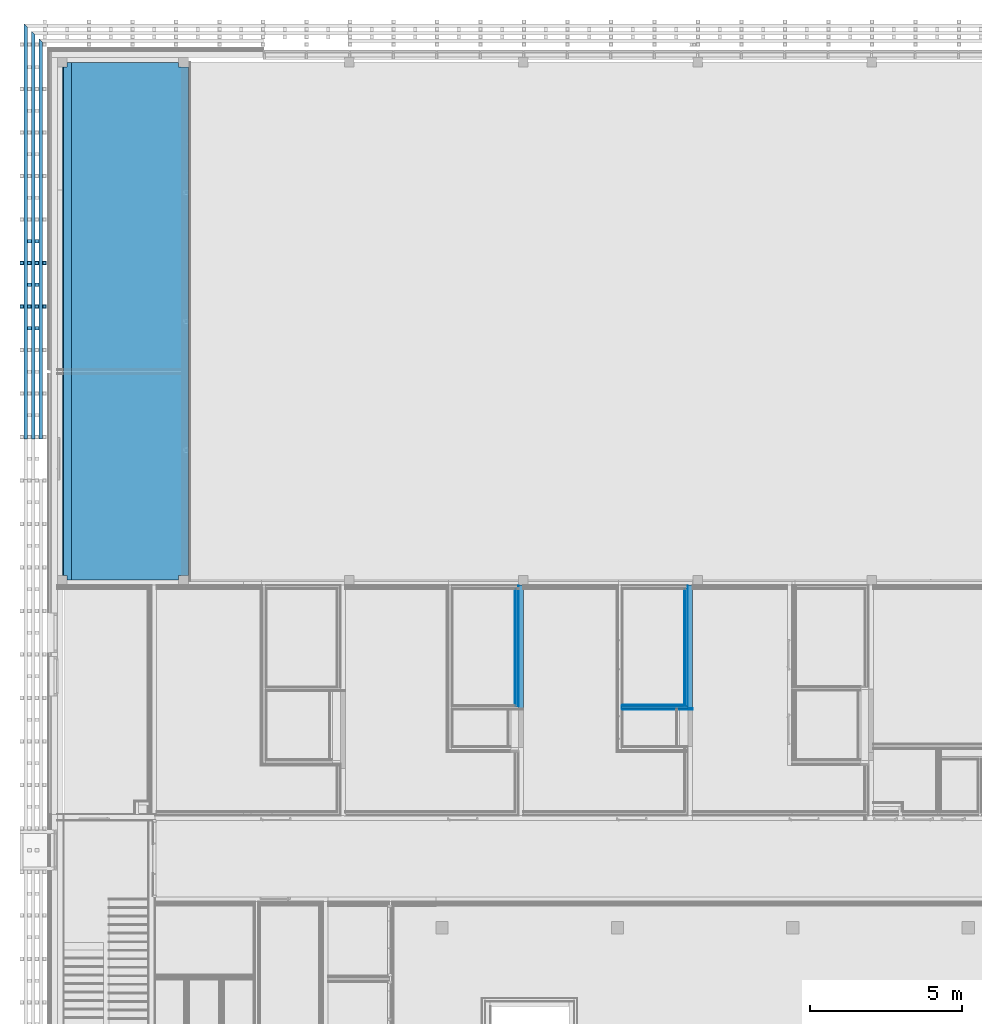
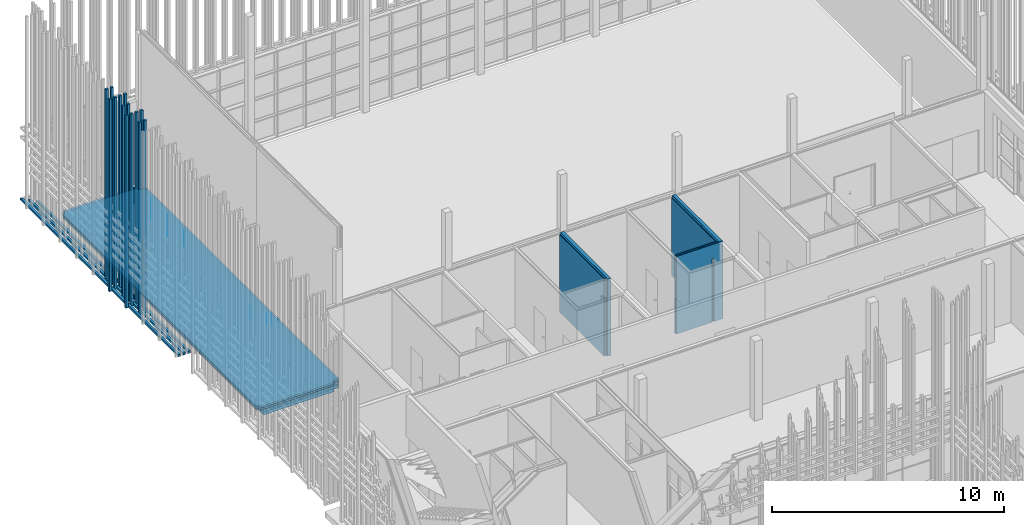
# One storey, part 225 of 260: 27 building element parts, 6 discrete accessories, 4 elements without a shape of their own.
"""IFC2X3 building model written with IfcOpenShell, lengths in millimetres."""

from ifc_helpers import new_model, entity, si_unit, converted_unit, derived_unit, money_unit, direction, frame, origin_with_axes, place, context, subcontext, project, spatial, faceted_brep, material, material_list, type_object, element, aggregate, save


model = new_model("IFC2X3")

# Units and contexts
model_context = context("Model", 3, precision=0.01, world=origin_with_axes(), true_north=direction((0.0, 1.0)))
body_context = subcontext(model_context, "Body", "Model", "MODEL_VIEW")
ifc_project = project(units=[si_unit("LENGTHUNIT", "METRE", prefix="MILLI"), si_unit("AREAUNIT", "SQUARE_METRE"), si_unit("VOLUMEUNIT", "CUBIC_METRE"), converted_unit("PLANEANGLEUNIT", "DEGREE", entity("IfcPlaneAngleMeasure", 0.0174532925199), si_unit("PLANEANGLEUNIT", "RADIAN"), dimensions=[0, 0, 0, 0, 0, 0, 0]), money_unit("EUR"), converted_unit("TIMEUNIT", "Year", entity("IfcTimeMeasure", 31556926.0), si_unit("TIMEUNIT", "SECOND"), dimensions=[0, 0, 1, 0, 0, 0, 0]), si_unit("MASSUNIT", "GRAM", prefix="KILO"), si_unit("THERMODYNAMICTEMPERATUREUNIT", "DEGREE_CELSIUS"), si_unit("LUMINOUSINTENSITYUNIT", "LUMEN"), si_unit("ENERGYUNIT", "JOULE", prefix="MEGA"), derived_unit("THERMALCONDUCTANCEUNIT", [(si_unit("POWERUNIT", "WATT"), 1), (si_unit("LENGTHUNIT", "METRE"), -1), (si_unit("THERMODYNAMICTEMPERATUREUNIT", "KELVIN"), -1)]), derived_unit("SPECIFICHEATCAPACITYUNIT", [(si_unit("ENERGYUNIT", "JOULE"), 1), (si_unit("MASSUNIT", "GRAM", prefix="KILO"), -1), (si_unit("THERMODYNAMICTEMPERATUREUNIT", "KELVIN"), -1)]), derived_unit("MASSDENSITYUNIT", [(si_unit("MASSUNIT", "GRAM", prefix="KILO"), 1), (si_unit("VOLUMEUNIT", "CUBIC_METRE"), -1)])], contexts=[model_context])

# Site, building, storey
site_placement = place(None, origin_with_axes())
site = spatial("IfcSite", under=ifc_project, at=site_placement, Name="Kolde pst 67a", CompositionType="ELEMENT")
building_placement = place(site_placement, origin_with_axes())
building = spatial("IfcBuilding", under=site, at=building_placement, Name="Riigigümnaasium", CompositionType="ELEMENT")
storey_placement = place(building_placement, origin_with_axes())
storey = spatial("IfcBuildingStorey", under=building, at=storey_placement, Name="1. korrus", CompositionType="ELEMENT", Elevation=0.0)

# Discrete accessories
ifc_material_1 = material(Name="_VÄLISVIIMISTLUS - sõrmjätkatud puitprussid 120x115mm, liitekohad vähemärgatavad, Platowood sõrmjätkatud kuusk või samaväärne; eeltöödeldud tuletõkkevõõbaga, tuletundlikkus B-s1, d0, Woodsafe Exterior WFX™ või samaväärne; kinnitused vastavalt EK osale")
ifc_material_list_1 = material_list([ifc_material_1, ifc_material_1, ifc_material_1, ifc_material_1])
discrete_accessory_type_1 = type_object("IfcDiscreteAccessoryType", Name="120 4-ne vertikaalne 870 x 115")
for number, where, z_axis, x_axis in (
    (1, (-310.003213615, 77692.222277, 280.0), (0.0, 0.0, 1.0), (0.999999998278, -5.86859191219e-05, 0.0)),
    (2, (-310.003213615, 76262.222277, 280.0), (0.0, 0.0, 1.0), (0.999999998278, -5.86859191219e-05, 0.0)),
):
    element("IfcDiscreteAccessory", number, at=place(storey_placement, frame(where, z_axis=z_axis, x_axis=x_axis)), inside=storey, type_object=discrete_accessory_type_1, material=ifc_material_list_1, Name="Päikesevarjestus", context=body_context, shape_type="Brep", body=[
        faceted_brep([(-133.0, -70.0, 0.0), (-13.0, -70.0, 0.0), (-13.0, -70.0, 10140.0), (-133.0, -70.0, 10140.0), (-133.0, 45.0, 0.0), (-13.0, 45.0, 0.0), (-13.0, 45.0, 10140.0), (-133.0, 45.0, 10140.0)], [[[0, 1, 2, 3]], [[0, 4, 5, 1]], [[1, 5, 6, 2]], [[3, 2, 6, 7]], [[4, 0, 3, 7]], [[5, 4, 7, 6]]]),
        faceted_brep([(-383.0, -70.0, 0.0), (-263.0, -70.0, 0.0), (-263.0, -70.0, 10140.0), (-383.0, -70.0, 10140.0), (-383.0, 45.0, 0.0), (-263.0, 45.0, 0.0), (-263.0, 45.0, 10140.0), (-383.0, 45.0, 10140.0)], [[[0, 1, 2, 3]], [[0, 4, 5, 1]], [[1, 5, 6, 2]], [[3, 2, 6, 7]], [[4, 0, 3, 7]], [[5, 4, 7, 6]]]),
        faceted_brep([(-633.0, -70.0, 0.0), (-513.0, -70.0, 0.0), (-513.0, -70.0, 10140.0), (-633.0, -70.0, 10140.0), (-633.0, 45.0, 0.0), (-513.0, 45.0, 0.0), (-513.0, 45.0, 10140.0), (-633.0, 45.0, 10140.0)], [[[0, 1, 2, 3]], [[0, 4, 5, 1]], [[1, 5, 6, 2]], [[3, 2, 6, 7]], [[4, 0, 3, 7]], [[5, 4, 7, 6]]]),
        faceted_brep([(-883.0, -70.0, 0.0), (-763.0, -70.0, 0.0), (-763.0, -70.0, 10140.0), (-883.0, -70.0, 10140.0), (-883.0, 45.0, 0.0), (-763.0, 45.0, 0.0), (-763.0, 45.0, 10140.0), (-883.0, 45.0, 10140.0)], [[[0, 1, 2, 3]], [[0, 4, 5, 1]], [[1, 5, 6, 2]], [[3, 2, 6, 7]], [[4, 0, 3, 7]], [[5, 4, 7, 6]]]),
    ])
ifc_material_list_2 = material_list([ifc_material_1, ifc_material_1, ifc_material_1])
discrete_accessory_type_2 = type_object("IfcDiscreteAccessoryType", Name="120 1+paiksekaitse 3 tk  620 x 115")
discrete_accessory_1_placement = place(storey_placement, frame((-322.999589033, 84803.0127984, 352.5), z_axis=(0.0, 0.0, 1.0), x_axis=(-1.0, 0.0, 0.0)))
element("IfcDiscreteAccessory", 3, at=discrete_accessory_1_placement, inside=storey, type_object=discrete_accessory_type_2, material=ifc_material_list_2, Name="Päikesevarjestus", context=body_context, shape_type="Brep", body=[
    faceted_brep([(625.0, 12903.2387015, 45.0), (625.0, -625.000606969, 45.0), (745.0, -745.000723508, 45.0), (745.0, 12903.2387015, 45.0), (625.0, 12903.2387015, -70.0), (625.0, -625.000606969, -70.0), (745.0, -745.000723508, -70.0), (745.0, 12903.2387015, -70.0)], [[[0, 1, 2, 3]], [[4, 5, 1, 0]], [[5, 6, 2, 1]], [[3, 2, 6, 7]], [[4, 0, 3, 7]], [[7, 6, 5, 4]]]),
    faceted_brep([(375.0, 12903.2387015, 45.0), (375.0, -375.000364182, 45.0), (495.0, -495.00048072, 45.0), (495.0, 12903.2387015, 45.0), (375.0, 12903.2387015, -70.0), (375.0, -375.000364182, -70.0), (495.0, -495.00048072, -70.0), (495.0, 12903.2387015, -70.0)], [[[0, 1, 2, 3]], [[4, 5, 1, 0]], [[5, 6, 2, 1]], [[3, 2, 6, 7]], [[4, 0, 3, 7]], [[7, 6, 5, 4]]]),
    faceted_brep([(125.0, 12903.2387015, 45.0), (125.0, -125.000121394, 45.0), (245.0, -245.000237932, 45.0), (245.0, 12903.2387015, 45.0), (125.0, 12903.2387015, -70.0), (125.0, -125.000121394, -70.0), (245.0, -245.000237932, -70.0), (245.0, 12903.2387015, -70.0)], [[[0, 1, 2, 3]], [[4, 5, 1, 0]], [[5, 6, 2, 1]], [[3, 2, 6, 7]], [[4, 0, 3, 7]], [[7, 6, 5, 4]]]),
])
ifc_material_list_3 = material_list([ifc_material_1, ifc_material_1])
discrete_accessory_type_3 = type_object("IfcDiscreteAccessoryType", Name="1+paiksekaitse 3 370 x 115")
discrete_accessory_2_placement = place(storey_placement, frame((-1290.00042497, 76904.758805, 280.0), z_axis=(0.0, 0.0, 1.0), x_axis=(1.0, 0.0, 0.0)))
element("IfcDiscreteAccessory", 4, at=discrete_accessory_2_placement, inside=storey, type_object=discrete_accessory_type_3, material=ifc_material_list_3, Name="Päikesevarjestus", context=body_context, shape_type="Brep", body=[
    faceted_brep([(467.0, 117.5, 0.0), (347.0, 117.5, 0.0), (347.0, 117.5, 10140.0), (467.0, 117.5, 10140.0), (467.0, 2.5, 0.0), (347.0, 2.5, 0.0), (347.0, 2.5, 10140.0), (467.0, 2.5, 10140.0)], [[[0, 1, 2, 3]], [[0, 4, 5, 1]], [[1, 5, 6, 2]], [[3, 2, 6, 7]], [[4, 0, 3, 7]], [[5, 4, 7, 6]]]),
    faceted_brep([(717.0, 117.5, 0.0), (597.0, 117.5, 0.0), (597.0, 117.5, 10140.0), (717.0, 117.5, 10140.0), (717.0, 2.5, 0.0), (597.0, 2.50000000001, 0.0), (597.0, 2.50000000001, 10140.0), (717.0, 2.5, 10140.0)], [[[0, 1, 2, 3]], [[0, 4, 5, 1]], [[1, 5, 6, 2]], [[3, 2, 6, 7]], [[4, 0, 3, 7]], [[5, 4, 7, 6]]]),
])
discrete_accessory_3_placement = place(storey_placement, frame((-1290.00042497, 78334.758805, 280.0), z_axis=(0.0, 0.0, 1.0), x_axis=(1.0, 0.0, 0.0)))
element("IfcDiscreteAccessory", 5, at=discrete_accessory_3_placement, inside=storey, type_object=discrete_accessory_type_3, material=ifc_material_list_3, Name="Päikesevarjestus", context=body_context, shape_type="Brep", body=[
    faceted_brep([(467.0, 117.5, 0.0), (347.0, 117.5, 0.0), (347.0, 117.5, 10139.8967642), (467.0, 117.5, 10139.8967642), (467.0, 2.5, 0.0), (347.0, 2.5, 0.0), (347.0, 2.5, 10139.8967642), (467.0, 2.5, 10139.8967642)], [[[0, 1, 2, 3]], [[0, 4, 5, 1]], [[1, 5, 6, 2]], [[3, 2, 6, 7]], [[4, 0, 3, 7]], [[5, 4, 7, 6]]]),
    faceted_brep([(717.0, 117.5, 0.0), (597.0, 117.5, 0.0), (597.0, 117.5, 10139.8967642), (717.0, 117.5, 10139.8967642), (717.0, 2.5, 0.0), (597.0, 2.50000000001, 0.0), (597.0, 2.50000000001, 10139.8967642), (717.0, 2.5, 10139.8967642)], [[[0, 1, 2, 3]], [[0, 4, 5, 1]], [[1, 5, 6, 2]], [[3, 2, 6, 7]], [[4, 0, 3, 7]], [[5, 4, 7, 6]]]),
])
discrete_accessory_4_placement = place(storey_placement, frame((-1290.00042497, 75474.758805, 280.0), z_axis=(0.0, 0.0, 1.0), x_axis=(1.0, 0.0, 0.0)))
element("IfcDiscreteAccessory", 6, at=discrete_accessory_4_placement, inside=storey, type_object=discrete_accessory_type_3, material=ifc_material_list_3, Name="Päikesevarjestus", context=body_context, shape_type="Brep", body=[
    faceted_brep([(467.0, 117.5, 0.0), (347.0, 117.5, 0.0), (347.0, 117.5, 10140.0), (467.0, 117.5, 10140.0), (467.0, 2.5, 0.0), (347.0, 2.5, 0.0), (347.0, 2.5, 10140.0), (467.0, 2.5, 10140.0)], [[[0, 1, 2, 3]], [[0, 4, 5, 1]], [[1, 5, 6, 2]], [[3, 2, 6, 7]], [[4, 0, 3, 7]], [[5, 4, 7, 6]]]),
    faceted_brep([(717.0, 117.5, 0.0), (597.0, 117.5, 0.0), (597.0, 117.5, 10140.0), (717.0, 117.5, 10140.0), (717.0, 2.5, 0.0), (597.0, 2.50000000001, 0.0), (597.0, 2.50000000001, 10140.0), (717.0, 2.5, 10140.0)], [[[0, 1, 2, 3]], [[0, 4, 5, 1]], [[1, 5, 6, 2]], [[3, 2, 6, 7]], [[4, 0, 3, 7]], [[5, 4, 7, 6]]]),
])

# Wall, building element parts
wall_type_1 = type_object("IfcWallType", Name="SS-CLT-16/3_vill+plaat märgruumid 285", PredefinedType="NOTDEFINED")
wall_1_placement = place(storey_placement, frame((20928.4872525, 67089.9971514, 0.0), z_axis=(0.0, 0.0, 1.0), x_axis=(0.0, -1.0, 0.0)))
wall_1 = element("IfcWall", 7, at=wall_1_placement, inside=storey, type_object=wall_type_1, Name="Sisesein")
ifc_material_2 = material(Name="_KANDETARIND - CLT ristkihtliimpuit vastavalt EK osale, CLT paigaldusvuugid teibitakse ROTHOBLAAS teibiga")
building_element_part_1_placement = place(wall_1_placement, origin_with_axes())
building_element_part_1 = element("IfcBuildingElementPart", 8, at=building_element_part_1_placement, material=ifc_material_2, Name="_KANDETARIND - CLT ristkihtliimpuit vastavalt EK osale, CLT paigaldusvuugid teibitakse ROTHOBLAAS teibiga", context=body_context, shape_type="Brep", body=[
    faceted_brep([(0.0, -160.0, 4080.0), (0.0, 0.0, 4080.0), (0.0, 0.0, 0.0), (0.0, -160.0, 0.0), (4050.9391817, 0.0, 4080.0), (4050.9391817, -160.0, 4080.0), (4050.9391817, 0.0, 0.0), (4050.9391817, -160.0, 0.0)], [[[0, 1, 2, 3]], [[4, 1, 0, 5]], [[1, 4, 6, 2]], [[7, 3, 2, 6]], [[5, 0, 3, 7]], [[4, 5, 7, 6]]]),
])
ifc_material_3 = material(Name="_ÕHKVAHE")
building_element_part_2_placement = place(wall_1_placement, origin_with_axes())
building_element_part_2 = element("IfcBuildingElementPart", 9, at=building_element_part_2_placement, material=ifc_material_3, Name="_ÕHKVAHE", context=body_context, shape_type="Brep", body=[
    faceted_brep([(25.0, -170.0, 4080.0), (25.0, -160.0, 4080.0), (25.0, -160.0, 0.0), (25.0, -170.0, 0.0), (3975.9391817, -160.0, 4080.0), (3975.9391817, -170.0, 4080.0), (3975.9391817, -160.0, 0.0), (3975.9391817, -170.0, 0.0)], [[[0, 1, 2, 3]], [[4, 1, 0, 5]], [[1, 4, 6, 2]], [[7, 3, 2, 6]], [[5, 0, 3, 7]], [[4, 5, 7, 6]]]),
])
ifc_material_4 = material(Name="_KARKASS - metallkarkass CW 75/50/06 ja UW 75/40/06, samm 600")
building_element_part_3_placement = place(wall_1_placement, origin_with_axes())
building_element_part_3 = element("IfcBuildingElementPart", 10, at=building_element_part_3_placement, material=ifc_material_4, Name="_KARKASS - metallkarkass CW 75/50/06 ja UW 75/40/06, samm 600", context=body_context, shape_type="Brep", body=[
    faceted_brep([(100.0, -245.0, 4080.0), (100.0, -170.0, 4080.0), (100.0, -170.0, 0.0), (100.0, -245.0, 0.0), (3975.9391817, -170.0, 4080.0), (3975.9391817, -245.0, 4080.0), (3975.9391817, -170.0, 0.0), (3975.9391817, -245.0, 0.0)], [[[0, 1, 2, 3]], [[4, 1, 0, 5]], [[1, 4, 6, 2]], [[7, 3, 2, 6]], [[5, 0, 3, 7]], [[4, 5, 7, 6]]]),
])
ifc_material_5 = material(Name="_PLAATMATERJAL - kipsplaat veekindel")
building_element_part_4_placement = place(wall_1_placement, origin_with_axes())
building_element_part_4 = element("IfcBuildingElementPart", 11, at=building_element_part_4_placement, material=ifc_material_5, Name="_PLAATMATERJAL - kipsplaat veekindel", context=body_context, shape_type="Brep", body=[
    faceted_brep([(130.0, -257.5, 4080.0), (130.0, -245.0, 4080.0), (130.0, -245.0, 0.0), (130.0, -257.5, 0.0), (3975.9391817, -245.0, 4080.0), (3975.9391817, -257.5, 4080.0), (3975.9391817, -245.0, 0.0), (3975.9391817, -257.5, 0.0)], [[[0, 1, 2, 3]], [[4, 1, 0, 5]], [[1, 4, 6, 2]], [[7, 3, 2, 6]], [[5, 0, 3, 7]], [[4, 5, 7, 6]]]),
])
building_element_part_5_placement = place(wall_1_placement, origin_with_axes())
building_element_part_5 = element("IfcBuildingElementPart", 12, at=building_element_part_5_placement, material=ifc_material_5, Name="_PLAATMATERJAL - kipsplaat veekindel", context=body_context, shape_type="Brep", body=[
    faceted_brep([(130.0, -270.0, 4080.0), (130.0, -257.5, 4080.0), (130.0, -257.5, 0.0), (130.0, -270.0, 0.0), (3963.4391817, -257.5, 4080.0), (3963.4391817, -270.0, 4080.0), (3963.4391817, -257.5, 0.0), (3963.4391817, -270.0, 0.0)], [[[0, 1, 2, 3]], [[4, 1, 0, 5]], [[1, 4, 6, 2]], [[7, 3, 2, 6]], [[5, 0, 3, 7]], [[4, 5, 7, 6]]]),
])
ifc_material_6 = material(Name="_VIIMISTLUSKIHT - viimistlus vastavalt SA osale")
building_element_part_6_placement = place(wall_1_placement, origin_with_axes())
building_element_part_6 = element("IfcBuildingElementPart", 13, at=building_element_part_6_placement, material=ifc_material_6, Name="_VIIMISTLUSKIHT - viimistlus vastavalt SA osale", context=body_context, shape_type="Brep", body=[
    faceted_brep([(140.0, -285.0, 4080.0), (140.0, -270.0, 4080.0), (140.0, -270.0, 0.0), (140.0, -285.0, 0.0), (3950.9391817, -270.0, 4080.0), (3950.9391817, -285.0, 4080.0), (3950.9391817, -270.0, 0.0), (3950.9391817, -285.0, 0.0)], [[[0, 1, 2, 3]], [[4, 1, 0, 5]], [[1, 4, 6, 2]], [[7, 3, 2, 6]], [[5, 0, 3, 7]], [[4, 5, 7, 6]]]),
])
aggregate(wall_1, [building_element_part_1, building_element_part_2, building_element_part_3, building_element_part_4, building_element_part_5, building_element_part_6])

wall_type_2 = type_object("IfcWallType", Name="SS-MK-7,5/1_plaaditud 155", PredefinedType="NOTDEFINED")
wall_2_placement = place(storey_placement, frame((18627.4872525, 63154.0579697, 0.0), z_axis=(0.0, 0.0, 1.0), x_axis=(1.0, 0.0, 0.0)))
wall_2 = element("IfcWall", 14, at=wall_2_placement, inside=storey, type_object=wall_type_2, Name="Sisesein")
building_element_part_7_placement = place(wall_2_placement, origin_with_axes())
building_element_part_7 = element("IfcBuildingElementPart", 15, at=building_element_part_7_placement, material=ifc_material_6, Name="_VIIMISTLUSKIHT - viimistlus vastavalt SA osale", context=body_context, shape_type="Brep", body=[
    faceted_brep([(0.0, 0.0, 4080.0), (2016.0, 0.0, 4080.0), (2016.0, 0.0, 0.0), (0.0, 0.0, 0.0), (2016.0, -15.0, 4080.0), (0.0, -15.0, 4080.0), (2016.0, -15.0, 0.0), (0.0, -15.0, 0.0)], [[[0, 1, 2, 3]], [[4, 1, 0, 5]], [[1, 4, 6, 2]], [[6, 7, 3, 2]], [[5, 0, 3, 7]], [[4, 5, 7, 6]]]),
])
building_element_part_8_placement = place(wall_2_placement, origin_with_axes())
building_element_part_8 = element("IfcBuildingElementPart", 16, at=building_element_part_8_placement, material=ifc_material_5, Name="_PLAATMATERJAL - kipsplaat veekindel", context=body_context, shape_type="Brep", body=[
    faceted_brep([(-15.0, -15.0, 4080.0), (2031.0, -15.0, 4080.0), (2031.0, -15.0, 0.0), (-15.0, -15.0, 0.0), (2031.0, -27.5, 4080.0), (-15.0, -27.5, 4080.0), (2031.0, -27.5, 0.0), (-15.0, -27.5, 0.0)], [[[0, 1, 2, 3]], [[4, 1, 0, 5]], [[1, 4, 6, 2]], [[6, 7, 3, 2]], [[5, 0, 3, 7]], [[4, 5, 7, 6]]]),
])
building_element_part_9_placement = place(wall_2_placement, origin_with_axes())
building_element_part_9 = element("IfcBuildingElementPart", 17, at=building_element_part_9_placement, material=ifc_material_5, Name="_PLAATMATERJAL - kipsplaat veekindel", context=body_context, shape_type="Brep", body=[
    faceted_brep([(-27.5, -27.5, 4080.0), (2043.5, -27.5, 4080.0), (2043.5, -27.5, 0.0), (-27.5, -27.5, 0.0), (2043.5, -40.0, 4080.0), (-27.5, -40.0, 4080.0), (2043.5, -40.0, 0.0), (-27.5, -40.0, 0.0)], [[[0, 1, 2, 3]], [[4, 1, 0, 5]], [[1, 4, 6, 2]], [[6, 7, 3, 2]], [[5, 0, 3, 7]], [[4, 5, 7, 6]]]),
])
ifc_material_7 = material(Name="_KARKASS - metallkarkass CW 75/50, mineraalvill karkassi vahel")
building_element_part_10_placement = place(wall_2_placement, origin_with_axes())
building_element_part_10 = element("IfcBuildingElementPart", 18, at=building_element_part_10_placement, material=ifc_material_7, Name="_KARKASS - metallkarkass CW 75/50, mineraalvill karkassi vahel", context=body_context, shape_type="Brep", body=[
    faceted_brep([(-40.0, -40.0, 4080.0), (2141.0, -40.0, 4080.0), (2141.0, -40.0, 0.0), (-40.0, -40.0, 0.0), (2141.0, -115.0, 4080.0), (-40.0, -115.0, 4080.0), (2141.0, -115.0, 0.0), (-40.0, -115.0, 0.0)], [[[0, 1, 2, 3]], [[4, 1, 0, 5]], [[1, 4, 6, 2]], [[6, 7, 3, 2]], [[5, 0, 3, 7]], [[4, 5, 7, 6]]]),
])
building_element_part_11_placement = place(wall_2_placement, origin_with_axes())
building_element_part_11 = element("IfcBuildingElementPart", 19, at=building_element_part_11_placement, material=ifc_material_5, Name="_PLAATMATERJAL - kipsplaat veekindel", context=body_context, shape_type="Brep", body=[
    faceted_brep([(-27.5, -115.0, 4080.0), (2301.00000203, -115.0, 4080.0), (2301.00001789, -115.0, 0.0), (1862.00000006, -115.0, 0.0), (1862.00000006, -115.0, 3340.0), (1796.00000006, -115.0, 3340.0), (1796.00000006, -115.0, 0.0), (-27.5, -115.0, 0.0), (2301.00000203, -127.5, 4080.0), (-27.5, -127.5, 4080.0), (2301.00001789, -127.5, 0.0), (1862.00000006, -127.5, 0.0), (1862.00000006, -127.5, 3340.0), (1796.00000006, -127.5, 3340.0), (1796.00000006, -127.5, 0.0), (-27.5, -127.5, 0.0)], [[[0, 1, 2, 3, 4, 5, 6, 7]], [[8, 1, 0, 9]], [[1, 8, 10, 2]], [[10, 11, 3, 2]], [[12, 4, 3, 11]], [[13, 5, 4, 12]], [[14, 6, 5, 13]], [[7, 6, 14, 15]], [[9, 0, 7, 15]], [[8, 9, 15, 14, 13, 12, 11, 10]]]),
])
building_element_part_12_placement = place(wall_2_placement, origin_with_axes())
building_element_part_12 = element("IfcBuildingElementPart", 20, at=building_element_part_12_placement, material=ifc_material_5, Name="_PLAATMATERJAL - kipsplaat veekindel", context=body_context, shape_type="Brep", body=[
    faceted_brep([(-15.0, -127.5, 4080.0), (2301.00000203, -127.5, 4080.0), (2301.00001789, -127.5, 0.0), (1862.00000006, -127.5, 0.0), (1862.00000006, -127.5, 3340.0), (1783.50000006, -127.5, 3340.0), (1783.50000006, -127.5, 0.0), (-15.0, -127.5, 0.0), (2301.00000203, -140.0, 4080.0), (-15.0, -140.0, 4080.0), (2301.00001789, -140.0, 0.0), (1862.00000006, -140.0, 0.0), (1862.00000006, -140.0, 3340.0), (1783.50000006, -140.0, 3340.0), (1783.50000006, -140.0, 0.0), (-15.0, -140.0, 0.0)], [[[0, 1, 2, 3, 4, 5, 6, 7]], [[8, 1, 0, 9]], [[1, 8, 10, 2]], [[10, 11, 3, 2]], [[12, 4, 3, 11]], [[4, 12, 13, 5]], [[14, 6, 5, 13]], [[7, 6, 14, 15]], [[9, 0, 7, 15]], [[8, 9, 15, 14, 13, 12, 11, 10]]]),
])
building_element_part_13_placement = place(wall_2_placement, origin_with_axes())
building_element_part_13 = element("IfcBuildingElementPart", 21, at=building_element_part_13_placement, material=ifc_material_6, Name="_VIIMISTLUSKIHT - viimistlus vastavalt SA osale", context=body_context, shape_type="Brep", body=[
    faceted_brep([(0.0, -140.0, 4080.0), (2301.00000203, -140.0, 4080.0), (2301.00001789, -140.0, 0.0), (1862.00000006, -140.0, 0.0), (1862.00000006, -140.0, 3340.0), (1771.00000006, -140.0, 3340.0), (1771.00000006, -140.0, 0.0), (0.0, -140.0, 0.0), (2301.00000047, -155.0, 4080.0), (0.0, -155.0, 4080.0), (2301.00001789, -155.0, 0.0), (1862.00000006, -155.0, 0.0), (1862.00000006, -155.0, 3340.0), (1771.00000006, -155.0, 3340.0), (1771.00000006, -155.0, 0.0), (0.0, -155.0, 0.0)], [[[0, 1, 2, 3, 4, 5, 6, 7]], [[8, 1, 0, 9]], [[1, 8, 10, 2]], [[10, 11, 3, 2]], [[12, 4, 3, 11]], [[4, 12, 13, 5]], [[14, 6, 5, 13]], [[7, 6, 14, 15]], [[9, 0, 7, 15]], [[8, 9, 15, 14, 13, 12, 11, 10]]]),
])
aggregate(wall_2, [building_element_part_7, building_element_part_8, building_element_part_9, building_element_part_10, building_element_part_11, building_element_part_12, building_element_part_13])

wall_3_placement = place(storey_placement, frame((15360.0, 67089.9971514, 0.0), z_axis=(0.0, 0.0, 1.0), x_axis=(0.0, -1.0, 0.0)))
wall_3 = element("IfcWall", 22, at=wall_3_placement, inside=storey, type_object=wall_type_1, Name="Sisesein")
building_element_part_14_placement = place(wall_3_placement, origin_with_axes())
building_element_part_14 = element("IfcBuildingElementPart", 23, at=building_element_part_14_placement, material=ifc_material_2, Name="_KANDETARIND - CLT ristkihtliimpuit vastavalt EK osale, CLT paigaldusvuugid teibitakse ROTHOBLAAS teibiga", context=body_context, shape_type="Brep", body=[
    faceted_brep([(2.0307311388e-08, -160.0, 4080.0), (2.0307311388e-08, 0.0, 4080.0), (2.0307311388e-08, 0.0, 0.0), (2.0307311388e-08, -160.0, 0.0), (4065.43785164, -160.0, 4080.0), (4065.43785164, 0.0, 4080.0), (4065.43785164, 0.0, 0.0), (4065.43785164, -160.0, 0.0)], [[[0, 1, 2, 3]], [[1, 0, 4, 5]], [[1, 5, 6, 2]], [[2, 6, 7, 3]], [[4, 0, 3, 7]], [[4, 7, 6, 5]]]),
])
building_element_part_15_placement = place(wall_3_placement, origin_with_axes())
building_element_part_15 = element("IfcBuildingElementPart", 24, at=building_element_part_15_placement, material=ifc_material_3, Name="_ÕHKVAHE", context=body_context, shape_type="Brep", body=[
    faceted_brep([(15.0000000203, -170.0, 4080.0), (15.0000000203, -160.0, 4080.0), (15.0000000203, -160.0, 0.0), (15.0000000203, -170.0, 0.0), (3990.43785166, -160.0, 4080.0), (3990.43785166, -170.0, 4080.0), (3990.43785166, -160.0, 0.0), (3990.43785166, -170.0, 0.0)], [[[0, 1, 2, 3]], [[4, 1, 0, 5]], [[1, 4, 6, 2]], [[6, 7, 3, 2]], [[5, 0, 3, 7]], [[4, 5, 7, 6]]]),
])
building_element_part_16_placement = place(wall_3_placement, origin_with_axes())
building_element_part_16 = element("IfcBuildingElementPart", 25, at=building_element_part_16_placement, material=ifc_material_4, Name="_KARKASS - metallkarkass CW 75/50/06 ja UW 75/40/06, samm 600", context=body_context, shape_type="Brep", body=[
    faceted_brep([(90.0000000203, -245.0, 4080.0), (90.0000000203, -170.0, 4080.0), (90.0000000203, -170.0, 0.0), (90.0000000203, -245.0, 0.0), (3990.43785166, -170.0, 4080.0), (3990.43785166, -245.0, 4080.0), (3990.43785166, -170.0, 0.0), (3990.43785166, -245.0, 0.0)], [[[0, 1, 2, 3]], [[4, 1, 0, 5]], [[1, 4, 6, 2]], [[6, 7, 3, 2]], [[5, 0, 3, 7]], [[4, 5, 7, 6]]]),
])
building_element_part_17_placement = place(wall_3_placement, origin_with_axes())
building_element_part_17 = element("IfcBuildingElementPart", 26, at=building_element_part_17_placement, material=ifc_material_5, Name="_PLAATMATERJAL - kipsplaat veekindel", context=body_context, shape_type="Brep", body=[
    faceted_brep([(130.00000002, -257.5, 4080.0), (130.00000002, -245.0, 4080.0), (130.00000002, -245.0, 0.0), (130.00000002, -257.5, 0.0), (3990.43785166, -245.0, 4080.0), (3990.43785166, -257.5, 4080.0), (3990.43785166, -245.0, 0.0), (3990.43785166, -257.5, 0.0)], [[[0, 1, 2, 3]], [[4, 1, 0, 5]], [[1, 4, 6, 2]], [[6, 7, 3, 2]], [[5, 0, 3, 7]], [[4, 5, 7, 6]]]),
])
building_element_part_18_placement = place(wall_3_placement, origin_with_axes())
building_element_part_18 = element("IfcBuildingElementPart", 27, at=building_element_part_18_placement, material=ifc_material_5, Name="_PLAATMATERJAL - kipsplaat veekindel", context=body_context, shape_type="Brep", body=[
    faceted_brep([(130.00000002, -270.0, 4080.0), (130.00000002, -257.5, 4080.0), (130.00000002, -257.5, 0.0), (130.00000002, -270.0, 0.0), (3977.93785166, -257.5, 4080.0), (3977.93785166, -270.0, 4080.0), (3977.93785166, -257.5, 0.0), (3977.93785166, -270.0, 0.0)], [[[0, 1, 2, 3]], [[4, 1, 0, 5]], [[1, 4, 6, 2]], [[6, 7, 3, 2]], [[5, 0, 3, 7]], [[4, 5, 7, 6]]]),
])
building_element_part_19_placement = place(wall_3_placement, origin_with_axes())
building_element_part_19 = element("IfcBuildingElementPart", 28, at=building_element_part_19_placement, material=ifc_material_6, Name="_VIIMISTLUSKIHT - viimistlus vastavalt SA osale", context=body_context, shape_type="Brep", body=[
    faceted_brep([(140.00000002, -285.0, 4080.0), (140.00000002, -270.0, 4080.0), (140.00000002, -270.0, 0.0), (140.00000002, -285.0, 0.0), (3965.43785166, -270.0, 4080.0), (3965.43785166, -285.0, 4080.0), (3965.43785166, -270.0, 0.0), (3965.43785166, -285.0, 0.0)], [[[0, 1, 2, 3]], [[4, 1, 0, 5]], [[1, 4, 6, 2]], [[6, 7, 3, 2]], [[5, 0, 3, 7]], [[4, 5, 7, 6]]]),
])
aggregate(wall_3, [building_element_part_14, building_element_part_15, building_element_part_16, building_element_part_17, building_element_part_18, building_element_part_19])

# Slab, building element parts
slab_type = type_object("IfcSlabType", Name="PP-RBM-10/1_EPS 200 500", PredefinedType="NOTDEFINED")
slab_placement = place(storey_placement, frame((4339.99949991, 84119.9808339, 0.0), z_axis=(0.0, 0.0, 1.0), x_axis=(1.0, 0.0, 0.0)))
slab = element("IfcSlab", 29, at=slab_placement, inside=storey, type_object=slab_type, Name="Põrand pinnasel", PredefinedType="NOTDEFINED")
ifc_material_8 = material(Name="_PEALEVALUKIHT - raudbetoonplaat vastavalt EK osale, vajadusel põrandküte")
building_element_part_20_placement = place(slab_placement, origin_with_axes())
building_element_part_20 = element("IfcBuildingElementPart", 30, at=building_element_part_20_placement, material=ifc_material_8, Name="_PEALEVALUKIHT - raudbetoonplaat vastavalt EK osale, vajadusel põrandküte", context=body_context, shape_type="Brep", body=[
    faceted_brep([(-4099.94314163, 0.019025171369, -20.000001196), (-4139.94318711, 0.019025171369, -20.000001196), (-4139.94318711, 0.019025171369, 0.0), (-3979.94314163, 0.0191269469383, 0.0), (-3979.94314163, 0.0191269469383, -100.0), (-4099.94314163, 0.0190506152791, -100.0), (-4099.94314163, -16709.9836825, -20.000002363), (-4140.05011721, -16709.9836825, -20.000002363), (-4140.05011721, -16709.9836825, 0.0), (0.0, -16709.9836825, 0.0), (0.0, 0.0, 0.0), (-320.0, 0.0, 0.0), (-319.999991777, 160.019139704, 0.0), (-3979.94307257, 160.019139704, 0.0), (-3980.05011721, -16709.9836825, 0.0), (-3980.05009261, -16869.9836702, 0.0), (-320.000006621, -16869.9836702, 0.0), (-319.999995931, -16709.9836825, 0.0), (-3979.94307257, 160.019139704, -100.0), (-4099.94314163, -16709.9836825, -100.0), (-319.999991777, 160.019139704, -100.0), (-320.0, 0.0, -100.0), (0.0, 0.0, -100.0), (0.0, -16709.9836825, -100.0), (-319.999995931, -16709.9836825, -100.0), (-320.000006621, -16869.9836702, -100.0), (-3980.05009261, -16869.9836702, -100.0), (-3980.05011721, -16709.9836825, -100.0)], [[[0, 1, 2, 3, 4, 5]], [[1, 0, 6, 7]], [[1, 7, 8, 2]], [[9, 10, 11, 12, 13, 3, 2, 8, 14, 15, 16, 17]], [[18, 4, 3, 13]], [[19, 5, 4, 18, 20, 21, 22, 23, 24, 25, 26, 27]], [[0, 5, 19, 6]], [[6, 19, 27, 14, 8, 7]], [[23, 22, 10, 9]], [[22, 21, 11, 10]], [[21, 20, 12, 11]], [[20, 18, 13, 12]], [[27, 26, 15, 14]], [[26, 25, 16, 15]], [[25, 24, 17, 16]], [[24, 23, 9, 17]]]),
])
ifc_material_9 = material(Name="_ERALDUSKIHT - polüetüleenkile 0,2mm, vuugid ülekattega 200mm ja teibitud")
building_element_part_21_placement = place(slab_placement, origin_with_axes())
building_element_part_21 = element("IfcBuildingElementPart", 31, at=building_element_part_21_placement, material=ifc_material_9, Name="_ERALDUSKIHT - polüetüleenkile 0,2mm, vuugid ülekattega 200mm ja teibitud", context=body_context, shape_type="Brep", body=[
    faceted_brep([(-4099.94314163, 0.0190506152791, -100.1), (-4099.94314163, 0.0190506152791, -100.0), (-3979.94314163, 0.0191269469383, -100.0), (-3979.94314163, 0.0191269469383, -100.1), (-4099.94314163, -16709.9836825, -100.0), (-4099.94314163, -16709.9836825, -100.1), (-3980.05011721, -16709.9836825, -100.0), (-3980.05009261, -16869.9836702, -100.0), (-320.000006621, -16869.9836702, -100.0), (-319.999995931, -16709.9836825, -100.0), (0.0, -16709.9836825, -100.0), (0.0, 0.0, -100.0), (-320.0, 0.0, -100.0), (-319.999991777, 160.019139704, -100.0), (-3979.94307257, 160.019139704, -100.0), (-3979.94307257, 160.019139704, -100.1), (-319.999991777, 160.019139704, -100.1), (-320.0, 0.0, -100.1), (0.0, 0.0, -100.1), (0.0, -16709.9836825, -100.1), (-319.999995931, -16709.9836825, -100.1), (-320.000006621, -16869.9836702, -100.1), (-3980.05009261, -16869.9836702, -100.1), (-3980.05011721, -16709.9836825, -100.1)], [[[0, 1, 2, 3]], [[4, 1, 0, 5]], [[1, 4, 6, 7, 8, 9, 10, 11, 12, 13, 14, 2]], [[15, 3, 2, 14]], [[5, 0, 3, 15, 16, 17, 18, 19, 20, 21, 22, 23]], [[4, 5, 23, 6]], [[23, 22, 7, 6]], [[22, 21, 8, 7]], [[21, 20, 9, 8]], [[20, 19, 10, 9]], [[19, 18, 11, 10]], [[18, 17, 12, 11]], [[17, 16, 13, 12]], [[16, 15, 14, 13]]]),
])
ifc_material_10 = material(Name="_SOOJUSTUS - vahtpolüstüreenplaadid EPS 120 Perimeeter, survetugevus min 120kPa, veeimavus <2%, soojuserijuhtivus λD<0,036 W/(mK)")
building_element_part_22_placement = place(slab_placement, origin_with_axes())
building_element_part_22 = element("IfcBuildingElementPart", 32, at=building_element_part_22_placement, material=ifc_material_10, Name="_SOOJUSTUS - vahtpolüstüreenplaadid EPS 120 Perimeeter, survetugevus min 120kPa, veeimavus <2%, soojuserijuhtivus λD<0,036 W/(mK)", context=body_context, shape_type="Brep", body=[
    faceted_brep([(-4099.94314163, 0.0190506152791, -200.1), (-4099.94314163, 0.0190506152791, -100.1), (-3979.94314163, 0.0191269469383, -100.1), (-3979.94314163, 0.0191269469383, -200.1), (-4099.94314163, -16709.9836825, -100.1), (-4099.94314163, -16709.9836825, -200.1), (-3980.05011721, -16709.9836825, -100.1), (-3980.05009261, -16869.9836702, -100.1), (-320.000006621, -16869.9836702, -100.1), (-319.999995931, -16709.9836825, -100.1), (0.0, -16709.9836825, -100.1), (0.0, 0.0, -100.1), (-320.0, 0.0, -100.1), (-319.999991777, 160.019139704, -100.1), (-3979.94307257, 160.019139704, -100.1), (-3979.94307257, 160.019139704, -200.1), (-319.999991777, 160.019139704, -200.1), (-320.0, 0.0, -200.1), (0.0, 0.0, -200.1), (0.0, -16709.9836825, -200.1), (-319.999995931, -16709.9836825, -200.1), (-320.000006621, -16869.9836702, -200.1), (-3980.05009261, -16869.9836702, -200.1), (-3980.05011721, -16709.9836825, -200.1)], [[[0, 1, 2, 3]], [[4, 1, 0, 5]], [[1, 4, 6, 7, 8, 9, 10, 11, 12, 13, 14, 2]], [[15, 3, 2, 14]], [[5, 0, 3, 15, 16, 17, 18, 19, 20, 21, 22, 23]], [[4, 5, 23, 6]], [[23, 22, 7, 6]], [[22, 21, 8, 7]], [[21, 20, 9, 8]], [[20, 19, 10, 9]], [[19, 18, 11, 10]], [[18, 17, 12, 11]], [[17, 16, 13, 12]], [[16, 15, 14, 13]]]),
])
ifc_material_11 = material(Name="_ERALDUSKIHT - radoonitõkkekile/-membraan LEKU 280g/m² või samaväärne")
building_element_part_23_placement = place(slab_placement, origin_with_axes())
building_element_part_23 = element("IfcBuildingElementPart", 33, at=building_element_part_23_placement, material=ifc_material_11, Name="_ERALDUSKIHT - radoonitõkkekile/-membraan LEKU 280g/m² või samaväärne", context=body_context, shape_type="Brep", body=[
    faceted_brep([(-4099.94314163, 0.0190506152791, -200.2), (-4099.94314163, 0.0190506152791, -200.1), (-3979.94314163, 0.0191269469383, -200.1), (-3979.94314163, 0.0191269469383, -200.2), (-4099.94314163, -16709.9836825, -200.1), (-4099.94314163, -16709.9836825, -200.2), (-3980.05011721, -16709.9836825, -200.1), (-3980.05009261, -16869.9836702, -200.1), (-320.000006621, -16869.9836702, -200.1), (-319.999995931, -16709.9836825, -200.1), (0.0, -16709.9836825, -200.1), (0.0, 0.0, -200.1), (-320.0, 0.0, -200.1), (-319.999991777, 160.019139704, -200.1), (-3979.94307257, 160.019139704, -200.1), (-3979.94307257, 160.019139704, -200.2), (-319.999991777, 160.019139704, -200.2), (-320.0, 0.0, -200.2), (0.0, 0.0, -200.2), (0.0, -16709.9836825, -200.2), (-319.999995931, -16709.9836825, -200.2), (-320.000006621, -16869.9836702, -200.2), (-3980.05009261, -16869.9836702, -200.2), (-3980.05011721, -16709.9836825, -200.2)], [[[0, 1, 2, 3]], [[4, 1, 0, 5]], [[1, 4, 6, 7, 8, 9, 10, 11, 12, 13, 14, 2]], [[15, 3, 2, 14]], [[5, 0, 3, 15, 16, 17, 18, 19, 20, 21, 22, 23]], [[4, 5, 23, 6]], [[23, 22, 7, 6]], [[22, 21, 8, 7]], [[21, 20, 9, 8]], [[20, 19, 10, 9]], [[19, 18, 11, 10]], [[18, 17, 12, 11]], [[17, 16, 13, 12]], [[16, 15, 14, 13]]]),
])
building_element_part_24_placement = place(slab_placement, origin_with_axes())
building_element_part_24 = element("IfcBuildingElementPart", 34, at=building_element_part_24_placement, material=ifc_material_10, Name="_SOOJUSTUS - vahtpolüstüreenplaadid EPS 120 Perimeeter, survetugevus min 120kPa, veeimavus <2%, soojuserijuhtivus λD<0,036 W/(mK)", context=body_context, shape_type="Brep", body=[
    faceted_brep([(-3840.00058566, 160.019139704, -270.000009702), (-3979.94307257, 160.019139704, -269.999983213), (-3979.94307257, 160.019139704, -200.2), (-319.999991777, 160.019139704, -200.2), (-319.999991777, 160.019139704, -300.2), (-3840.00058566, 160.019139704, -300.2), (-3840.00058566, -16869.9836702, -270.000009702), (-3980.05009261, -16869.9836702, -269.999983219), (-3980.05011721, -16709.9836825, -269.999983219), (-4099.94314163, -16709.9836825, -270.00000149), (-4099.94314163, 0.019025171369, -270.00000149), (-3979.94314163, 0.0191269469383, -269.999983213), (-3979.94314163, 0.0191269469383, -200.2), (-4099.94314163, 0.0190506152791, -200.2), (-4099.94314163, -16709.9836825, -200.2), (-3980.05011721, -16709.9836825, -200.2), (-3980.05009261, -16869.9836702, -200.2), (-320.000006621, -16869.9836702, -200.2), (-319.999995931, -16709.9836825, -200.2), (0.0, -16709.9836825, -200.2), (0.0, 0.0, -200.2), (-320.0, 0.0, -200.2), (-320.0, 0.0, -300.2), (-3840.00058566, -16869.9836702, -300.2), (0.0, 0.0, -300.2), (0.0, -16709.9836825, -300.2), (-319.999995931, -16709.9836825, -300.2), (-320.000006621, -16869.9836702, -300.2)], [[[0, 1, 2, 3, 4, 5]], [[1, 0, 6, 7, 8, 9, 10, 11]], [[1, 11, 12, 2]], [[13, 14, 15, 16, 17, 18, 19, 20, 21, 3, 2, 12]], [[22, 4, 3, 21]], [[23, 5, 4, 22, 24, 25, 26, 27]], [[0, 5, 23, 6]], [[6, 23, 27, 17, 16, 7]], [[8, 7, 16, 15]], [[9, 8, 15, 14]], [[14, 13, 10, 9]], [[10, 13, 12, 11]], [[27, 26, 18, 17]], [[26, 25, 19, 18]], [[25, 24, 20, 19]], [[24, 22, 21, 20]]]),
])
ifc_material_12 = material(Name="_TÄIDE - tasandus-/tugevduskiht, pinnasesse tambitud killustik E=80MPa, kiilutud fr 4/16")
building_element_part_25_placement = place(slab_placement, origin_with_axes())
building_element_part_25 = element("IfcBuildingElementPart", 35, at=building_element_part_25_placement, material=ifc_material_12, Name="_TÄIDE - tasandus-/tugevduskiht, pinnasesse tambitud killustik E=80MPa, kiilutud fr 4/16", context=body_context, shape_type="Brep", body=[
    faceted_brep([(-3840.00058566, 160.019139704, -350.2), (-3840.00058566, 160.019139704, -300.2), (-319.999991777, 160.019139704, -300.2), (-319.999991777, 160.019139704, -350.2), (-3840.00058566, -16869.9836702, -300.2), (-3840.00058566, -16869.9836702, -350.2), (-320.000006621, -16869.9836702, -300.2), (-319.999995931, -16709.9836825, -300.2), (0.0, -16709.9836825, -300.2), (0.0, 0.0, -300.2), (-320.0, 0.0, -300.2), (-320.0, 0.0, -350.2), (0.0, 0.0, -350.2), (0.0, -16709.9836825, -350.2), (-319.999995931, -16709.9836825, -350.2), (-320.000006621, -16869.9836702, -350.2)], [[[0, 1, 2, 3]], [[4, 1, 0, 5]], [[1, 4, 6, 7, 8, 9, 10, 2]], [[11, 3, 2, 10]], [[5, 0, 3, 11, 12, 13, 14, 15]], [[4, 5, 15, 6]], [[15, 14, 7, 6]], [[14, 13, 8, 7]], [[13, 12, 9, 8]], [[12, 11, 10, 9]]]),
])
ifc_material_13 = material(Name="_TÄIDE - tasandus-/tugevduskiht, pinnasesse tambitud killustik E=80MPa, fr 16/32")
building_element_part_26_placement = place(slab_placement, origin_with_axes())
building_element_part_26 = element("IfcBuildingElementPart", 36, at=building_element_part_26_placement, material=ifc_material_13, Name="_TÄIDE - tasandus-/tugevduskiht, pinnasesse tambitud killustik E=80MPa, fr 16/32", context=body_context, shape_type="Brep", body=[
    faceted_brep([(-3840.00058566, 160.019139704, -500.2), (-3840.00058566, 160.019139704, -350.2), (-319.999991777, 160.019139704, -350.2), (-319.999991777, 160.019139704, -500.2), (-3840.00058566, -16869.9836702, -350.2), (-3840.00058566, -16869.9836702, -500.2), (-320.000006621, -16869.9836702, -350.2), (-319.999995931, -16709.9836825, -350.2), (0.0, -16709.9836825, -350.2), (0.0, 0.0, -350.2), (-320.0, 0.0, -350.2), (-320.0, 0.0, -500.2), (0.0, 0.0, -500.2), (0.0, -16709.9836825, -500.2), (-319.999995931, -16709.9836825, -500.2), (-320.000006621, -16869.9836702, -500.2)], [[[0, 1, 2, 3]], [[4, 1, 0, 5]], [[1, 4, 6, 7, 8, 9, 10, 2]], [[11, 3, 2, 10]], [[5, 0, 3, 11, 12, 13, 14, 15]], [[4, 5, 15, 6]], [[15, 14, 7, 6]], [[14, 13, 8, 7]], [[13, 12, 9, 8]], [[12, 11, 10, 9]]]),
])
ifc_material_14 = material(Name="_PINNAS - tihendatud mineraalne tagasitäide või olemasolev pinnas, tihendusaste 92%, Emax/E1 <2.8 (vastavalt MaaRYL2010 klassile 2)")
building_element_part_27_placement = place(slab_placement, origin_with_axes())
building_element_part_27 = element("IfcBuildingElementPart", 37, at=building_element_part_27_placement, material=ifc_material_14, Name="_PINNAS - tihendatud mineraalne tagasitäide või olemasolev pinnas, tihendusaste 92%, Emax/E1 <2.8 (vastavalt MaaRYL2010 klassile 2)", context=body_context, shape_type="Brep", body=[
    faceted_brep([(-3840.00058566, 160.019139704, -500.3), (-3840.00058566, 160.019139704, -500.2), (-319.999991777, 160.019139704, -500.2), (-319.999991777, 160.019139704, -500.3), (-3840.00058566, -16869.9836702, -500.2), (-3840.00058566, -16869.9836702, -500.3), (-320.000006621, -16869.9836702, -500.2), (-319.999995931, -16709.9836825, -500.2), (0.0, -16709.9836825, -500.2), (0.0, 0.0, -500.2), (-320.0, 0.0, -500.2), (-320.0, 0.0, -500.3), (0.0, 0.0, -500.3), (0.0, -16709.9836825, -500.3), (-319.999995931, -16709.9836825, -500.3), (-320.000006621, -16869.9836702, -500.3)], [[[0, 1, 2, 3]], [[4, 1, 0, 5]], [[1, 4, 6, 7, 8, 9, 10, 2]], [[10, 11, 3, 2]], [[5, 0, 3, 11, 12, 13, 14, 15]], [[4, 5, 15, 6]], [[6, 15, 14, 7]], [[7, 14, 13, 8]], [[8, 13, 12, 9]], [[9, 12, 11, 10]]]),
])
aggregate(slab, [building_element_part_20, building_element_part_21, building_element_part_22, building_element_part_23, building_element_part_24, building_element_part_25, building_element_part_26, building_element_part_27])

save(model, "model.ifc")
